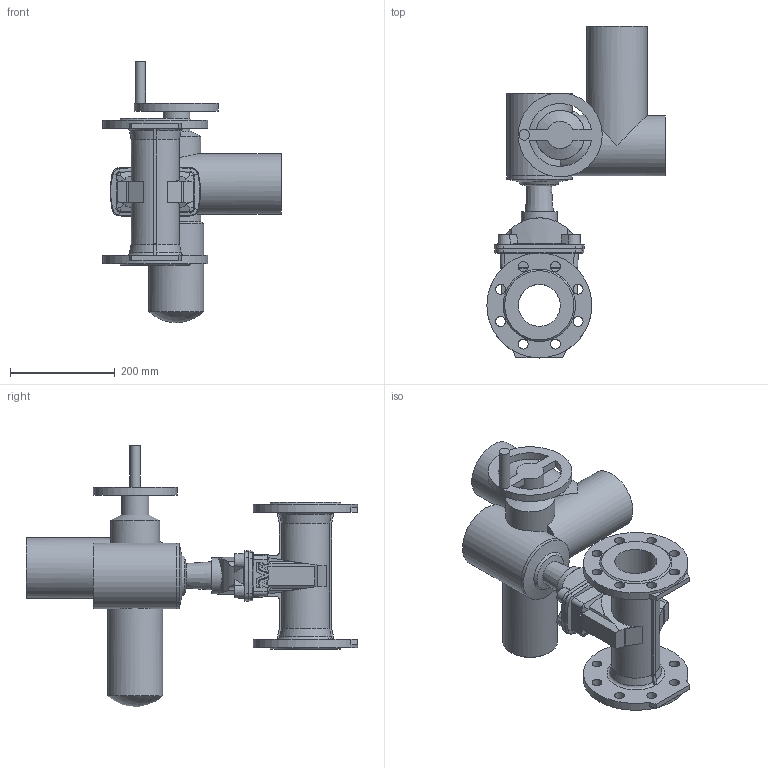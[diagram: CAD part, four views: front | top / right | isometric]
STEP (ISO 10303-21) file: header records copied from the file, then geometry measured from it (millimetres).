
FILE_DESCRIPTION (( 'STEP AP203' ), '1' );
FILE_NAME ('O_15_72_DN080_X1XXX099_SA07.6_AA0.step', '2017-03-20T12:45:48', ( 'Windows User' ), ( 'AVK' ), 'SwSTEP 2.0', 'SolidWorks 2012', '' );
FILE_SCHEMA (( 'CONFIG_CONTROL_DESIGN' ));
Length unit declared in the file: inch
Products named in the file (1): O_15_72_DN080_X1XXX099_SA07.6_AA0
Bounding box: 340 x 633 x 498.55 mm (x, y, z)
Volume: 10994279 mm3; surface area: 701254.4 mm2
Topology: 1 solids, 1 shells, 289 faces, 820 edges, 538 vertices
Faces by surface type: plane 138, cylinder 90, cone 58, torus 2, sphere 1
Full cylindrical faces by diameter (mm): 19 x16, 20 x1, 52.112 x1, 69 x1, 80 x1, 93.905 x1, 105 x1, 115 x2, 125 x2, 160 x1, 200 x2
Entity records: 10090 total; most frequent: CARTESIAN_POINT 2974, ORIENTED_EDGE 1496, DIRECTION 1374, EDGE_CURVE 748, VERTEX_POINT 510, AXIS2_PLACEMENT_3D 482, VECTOR 410, LINE 410
